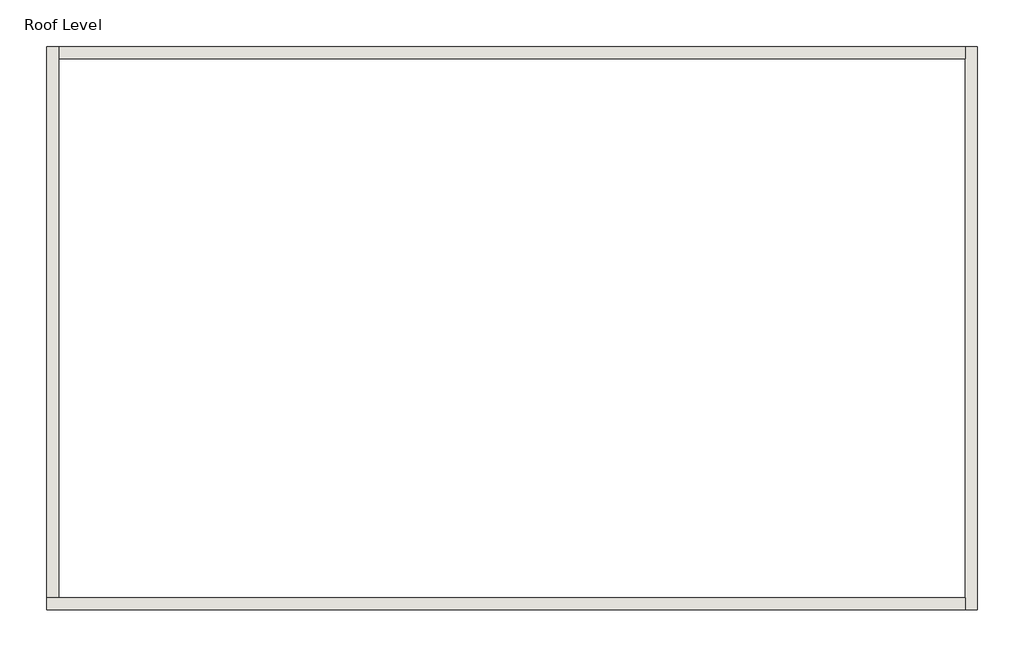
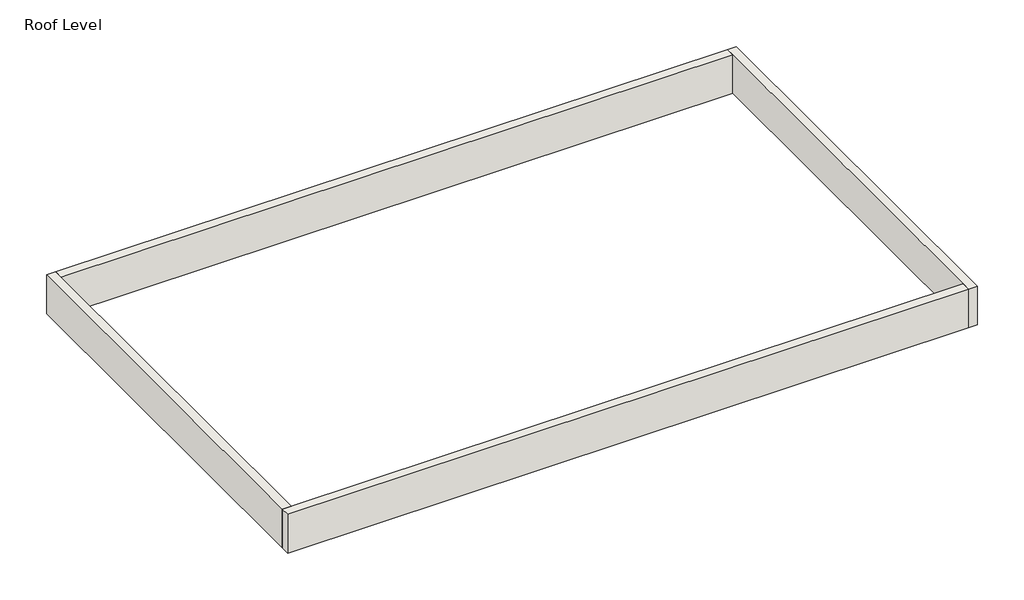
# One storey: 4 walls.
"""IFC4 building model written with IfcOpenShell, lengths in millimetres."""

from ifc_helpers import new_model, si_unit, frame, origin, place, context, project, spatial, polyline, outline, extrude, faceted_brep, element, save

model = new_model("IFC4")

# Units and contexts
model_context = context("Model", 3, world=origin())
ifc_project = project(units=[si_unit("LENGTHUNIT", "METRE", prefix="MILLI")], contexts=[model_context])

# Site, building, storey
site = spatial("IfcSite", under=ifc_project)
building = spatial("IfcBuilding", under=site)
storey = spatial("IfcBuildingStorey", under=building, Name="Roof Level", Elevation=9144.0)

# Walls
placement = place(None, origin())
element("IfcWall", 1, ObjectType="Generic - 8\"", at=placement, inside=storey, context=model_context, shape_type="Brep", body=[
    faceted_brep([(-11062.1324207, -4509.9593364, 9144.0), (4177.8675793, -4509.9593364, 9144.0), (4177.8675793, -4509.9593364, 10058.4), (-11062.1324207, -4509.9593364, 10058.4), (-11062.1324207, -4306.7593364, 9144.0), (-11062.1324207, -4306.7593364, 10058.4), (-10858.9324207, -4306.7593364, 10058.4), (4177.8675793, -4306.7593364, 10058.4), (4177.8675793, -4306.7593364, 9144.0), (-10858.9324207, -4306.7593364, 9144.0)], [[[0, 1, 2, 3]], [[4, 5, 6, 7, 8, 9]], [[1, 0, 4, 9, 8]], [[3, 2, 7, 6, 5]], [[0, 3, 5, 4]], [[2, 1, 8, 7]]]),
])
element("IfcWall", 2, ObjectType="Generic - 8\"", at=placement, inside=storey, context=model_context, shape_type="Brep", body=[
    faceted_brep([(-11062.1324207, 4837.2406636, 9144.0), (-11062.1324207, -4306.7593364, 9144.0), (-11062.1324207, -4306.7593364, 10058.4), (-11062.1324207, 4837.2406636, 10058.4), (-10858.9324207, 4837.2406636, 9144.0), (-10858.9324207, 4837.2406636, 10058.4), (-10858.9324207, 4634.0406636, 10058.4), (-10858.9324207, -4306.7593364, 10058.4), (-10858.9324207, -4306.7593364, 9144.0), (-10858.9324207, 4634.0406636, 9144.0)], [[[0, 1, 2, 3]], [[4, 5, 6, 7, 8, 9]], [[1, 0, 4, 9, 8]], [[3, 2, 7, 6, 5]], [[0, 3, 5, 4]], [[2, 1, 8, 7]]]),
])
element("IfcWall", 3, ObjectType="Generic - 8\"", at=placement, inside=storey, context=model_context, shape_type="SweptSolid", body=[
    extrude(outline(polyline([(-10858.9324207, 4837.2406636), (4177.8675793, 4837.2406636), (4177.8675793, 4634.0406636), (-10858.9324207, 4634.0406636), (-10858.9324207, 4837.2406636)])), frame((0.0, 0.0, 9144.0), z_axis=(0.0, 0.0, 1.0), x_axis=(1.0, 0.0, 0.0)), (0.0, 0.0, 1.0), 914.4),
])
element("IfcWall", 4, ObjectType="Generic - 8\"", at=placement, inside=storey, context=model_context, shape_type="Brep", body=[
    faceted_brep([(4381.0675793, -4509.9593364, 9144.0), (4381.0675793, 4837.2406636, 9144.0), (4381.0675793, 4837.2406636, 10058.4), (4381.0675793, -4509.9593364, 10058.4), (4177.8675793, -4509.9593364, 9144.0), (4177.8675793, -4509.9593364, 10058.4), (4177.8675793, -4306.7593364, 10058.4), (4177.8675793, 4634.0406636, 10058.4), (4177.8675793, 4837.2406636, 10058.4), (4177.8675793, 4837.2406636, 9144.0), (4177.8675793, 4634.0406636, 9144.0), (4177.8675793, -4306.7593364, 9144.0)], [[[0, 1, 2, 3]], [[4, 5, 6, 7, 8, 9, 10, 11]], [[1, 0, 4, 11, 10, 9]], [[3, 2, 8, 7, 6, 5]], [[0, 3, 5, 4]], [[2, 1, 9, 8]]]),
])

save(model, "model.ifc")
